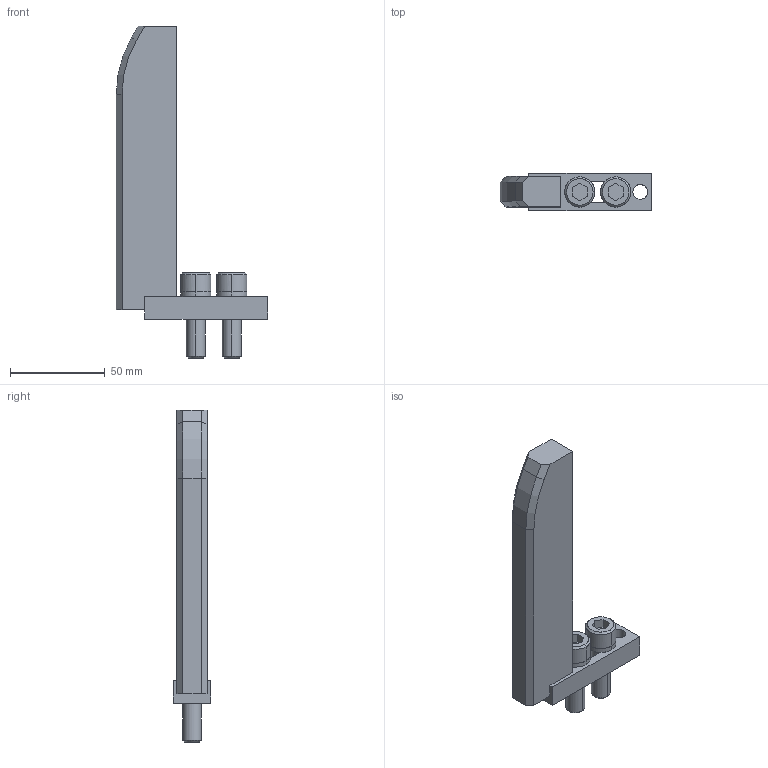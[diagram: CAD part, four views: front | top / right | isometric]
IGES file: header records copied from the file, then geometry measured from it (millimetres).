
Global section: file name: E:\UnigraphicsGraphicData\MISUMI_PRESS-PARTS\IGES\3d_enstd155-20-m10_01448_r00.igs; native system: NX V5.0; preprocessor: UGS NX IGES V5.0; author: MISUMI; date: 20110105.160629; units: millimetre
Bounding box: 80 x 20 x 175.5 mm (x, y, z)
Surface area: 23619.9 mm2 (no closed solid volume)
Topology: 0 solids, 0 shells, 74 faces, 456 edges, 456 vertices
Faces by surface type: bspline 74
